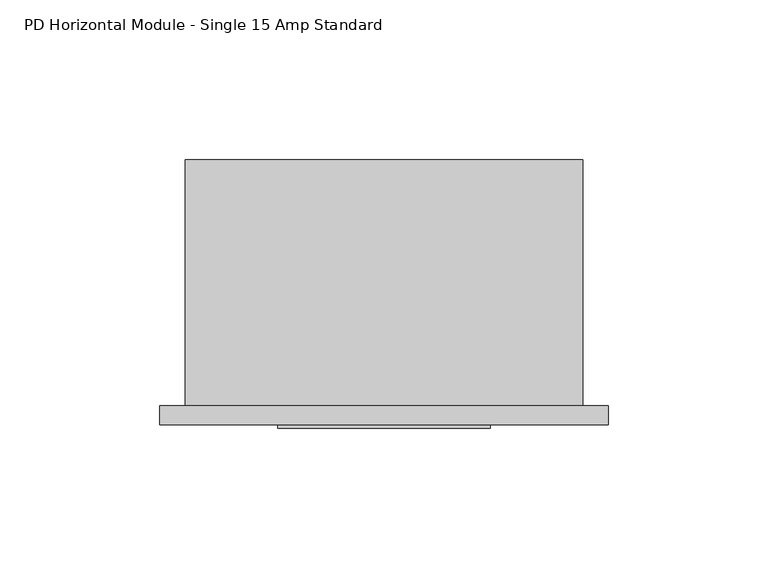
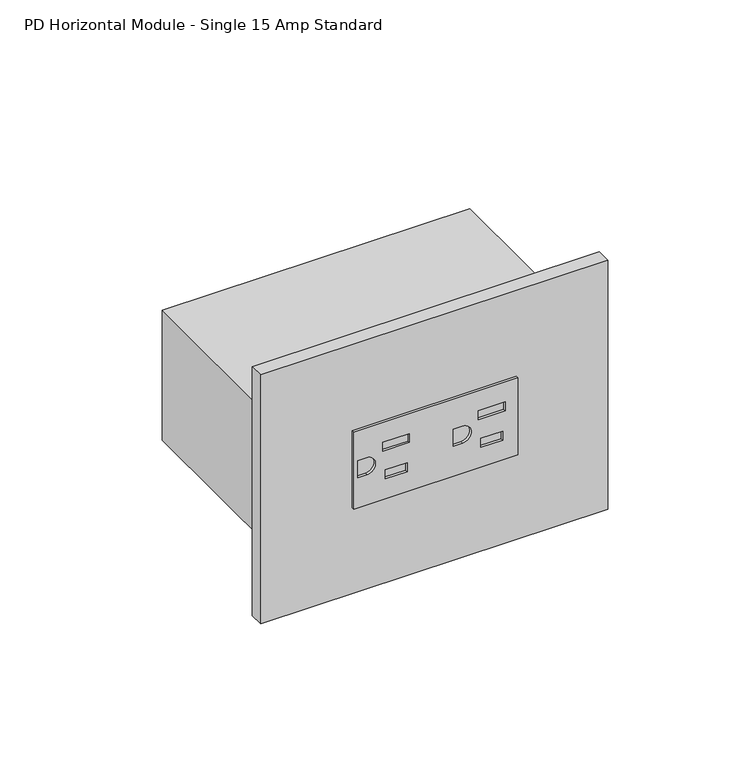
"""IFC4 building model written with IfcOpenShell, lengths in millimetres: proxy geometry, Electrical-Teknion-EPDHS_Horizontal_Power_Data_Single-R2019 : PD Horizontal Module - Single 15 Amp Standard."""

import ifcopenshell
import ifcopenshell.guid

model = None  # the IFC model being written
_history = None  # IfcOwnerHistory: only IFC2X3 demands one
_inside = {}  # id of a spatial element -> (the spatial element, [elements in it])
_under = {}  # id of a project, library or spatial element -> (it, [spatial elements below it])
_declared = {}  # id of a project -> (the project, [libraries it declares])
_typed = {}  # id of a type object -> (the type object, [elements of that type])
_made_of = {}  # id of a material, layer set ... -> (it, [elements and type objects made of it])


def new_model(schema):
    """Start an empty IFC model of exactly this schema.

    Asked for "IFC4X3", IfcOpenShell would pick the latest addendum, in which some entities
    have other attributes; the version numbers below select the first issue.
    IFC2X3 requires an IfcOwnerHistory on every rooted entity: one is made here for all.
    """
    global model, _history
    if schema == "IFC4X3":
        model = ifcopenshell.file(schema_version=(4, 3, 0, 0))
    else:
        model = ifcopenshell.file(schema=schema)
    _inside.clear()
    _under.clear()
    _declared.clear()
    _typed.clear()
    _made_of.clear()
    _history = None
    if model.schema == "IFC2X3":
        org = make("IfcOrganization", Name="unknown")
        user = make(
            "IfcPersonAndOrganization",
            ThePerson=make("IfcPerson", FamilyName="unknown"),
            TheOrganization=org,
        )
        app = make(
            "IfcApplication",
            ApplicationDeveloper=org,
            Version="unknown",
            ApplicationFullName="unknown",
            ApplicationIdentifier="unknown",
        )
        _history = make(
            "IfcOwnerHistory",
            OwningUser=user,
            OwningApplication=app,
            ChangeAction="ADDED",
            CreationDate=0,
        )
    return model


def make(cls, **values):
    """One entity of the class cls with the attributes given. An attribute that is None is left unset."""
    return model.create_entity(
        cls, **{name: value for name, value in values.items() if value is not None}
    )


def rooted(cls, **values):
    """An entity with a GlobalId (a new one), such as an element, a storey or a relation."""
    return make(cls, GlobalId=ifcopenshell.guid.new(), OwnerHistory=_history, **values)


def si_unit(unit_type, name, prefix=None):
    """IfcSIUnit, for example si_unit("LENGTHUNIT", "METRE", prefix="MILLI")."""
    return make("IfcSIUnit", UnitType=unit_type, Prefix=prefix, Name=name)


def assignment(units):
    """IfcUnitAssignment: the units of a project."""
    return None if units is None else make("IfcUnitAssignment", Units=units)


def point(xyz):
    """IfcCartesianPoint."""
    return None if xyz is None else make("IfcCartesianPoint", Coordinates=xyz)


def direction(xyz):
    """IfcDirection."""
    return None if xyz is None else make("IfcDirection", DirectionRatios=xyz)


def frame(location, z_axis=None, x_axis=None):
    """IfcAxis2Placement3D, a coordinate frame: its origin and axes. An axis left out is left unset."""
    return make(
        "IfcAxis2Placement3D",
        Location=point(location),
        Axis=direction(z_axis),
        RefDirection=direction(x_axis),
    )


def frame_2d(location, x_axis=None):
    """IfcAxis2Placement2D, a coordinate frame in the plane: its origin and x axis."""
    return make(
        "IfcAxis2Placement2D", Location=point(location), RefDirection=direction(x_axis)
    )


def origin():
    """The frame at (0, 0, 0) with its axes left unset."""
    return frame((0.0, 0.0, 0.0))


def place(relative_to, where):
    """IfcLocalPlacement: puts the frame where relative to a parent placement (None: the world)."""
    return make(
        "IfcLocalPlacement", PlacementRelTo=relative_to, RelativePlacement=where
    )


def context(
    kind, dimensions, precision=None, world=None, true_north=None, identifier=None
):
    """IfcGeometricRepresentationContext, for example the 3D "Model" context."""
    return make(
        "IfcGeometricRepresentationContext",
        ContextIdentifier=identifier,
        ContextType=kind,
        CoordinateSpaceDimension=dimensions,
        Precision=precision,
        WorldCoordinateSystem=world,
        TrueNorth=true_north,
    )


def project(units=None, contexts=None):
    """IfcProject with its units and contexts."""
    return rooted(
        "IfcProject",
        Name="project",
        RepresentationContexts=contexts,
        UnitsInContext=assignment(units),
    )


def spatial(cls, under=None, at=None, **own):
    """A site, building, storey or space (cls), placed at a placement, below another one or the project."""
    s = rooted(cls, ObjectPlacement=at, **own)
    if under is not None:
        _under.setdefault(under.id(), (under, []))[1].append(s)
    return s


def polyline(points):
    """IfcPolyline through the points."""
    return make("IfcPolyline", Points=[point(p) for p in points])


def circle_curve(where, radius):
    """IfcCircle in the frame where."""
    return make("IfcCircle", Position=where, Radius=radius)


def trimmed(basis, trim1, trim2, sense, master):
    """IfcTrimmedCurve: the piece of a basis curve between two trims."""
    return make(
        "IfcTrimmedCurve",
        BasisCurve=basis,
        Trim1=trim1,
        Trim2=trim2,
        SenseAgreement=sense,
        MasterRepresentation=master,
    )


def segment(curve, same_sense, transition):
    """IfcCompositeCurveSegment."""
    return make(
        "IfcCompositeCurveSegment",
        Transition=transition,
        SameSense=same_sense,
        ParentCurve=curve,
    )


def composite_curve(segments, self_intersect=None):
    """IfcCompositeCurve: segments joined end to end."""
    return make("IfcCompositeCurve", Segments=segments, SelfIntersect=self_intersect)


def outline(outer, holes=None, kind="AREA"):
    """IfcArbitraryClosedProfileDef: a profile drawn as a closed curve; with holes, ...WithVoids."""
    if holes is None:
        return make("IfcArbitraryClosedProfileDef", ProfileType=kind, OuterCurve=outer)
    return make(
        "IfcArbitraryProfileDefWithVoids",
        ProfileType=kind,
        OuterCurve=outer,
        InnerCurves=holes,
    )


def extrude(swept, where, along, depth):
    """IfcExtrudedAreaSolid: the profile swept, set in the frame where, extruded along a direction by depth."""
    return make(
        "IfcExtrudedAreaSolid",
        SweptArea=swept,
        Position=where,
        ExtrudedDirection=direction(along),
        Depth=depth,
    )


def shape(context_of_items, identifier, shape_type, items):
    """IfcShapeRepresentation: the items that make up one representation, for example the "Body"."""
    return make(
        "IfcShapeRepresentation",
        ContextOfItems=context_of_items,
        RepresentationIdentifier=identifier,
        RepresentationType=shape_type,
        Items=items,
    )


def source(mapping_origin, context_of_items, identifier, shape_type, items):
    """IfcRepresentationMap: a shape defined once, which mapped items show again and again."""
    return make(
        "IfcRepresentationMap",
        MappingOrigin=mapping_origin,
        MappedRepresentation=shape(context_of_items, identifier, shape_type, items),
    )


def transform(
    local_origin,
    x_axis=None,
    y_axis=None,
    z_axis=None,
    scale=None,
    scale2=None,
    scale3=None,
    uniform=True,
):
    """IfcCartesianTransformationOperator3D, or its non-uniform kind. x_axis, y_axis, z_axis: its Axis1, 2, 3."""
    if uniform:
        return make(
            "IfcCartesianTransformationOperator3D",
            Axis1=direction(x_axis),
            Axis2=direction(y_axis),
            LocalOrigin=point(local_origin),
            Scale=scale,
            Axis3=direction(z_axis),
        )
    return make(
        "IfcCartesianTransformationOperator3DnonUniform",
        Axis1=direction(x_axis),
        Axis2=direction(y_axis),
        LocalOrigin=point(local_origin),
        Scale=scale,
        Axis3=direction(z_axis),
        Scale2=scale2,
        Scale3=scale3,
    )


def mapped(mapping_source, mapping_target):
    """IfcMappedItem: shows the shape of a source again, moved by a transform."""
    return make(
        "IfcMappedItem", MappingSource=mapping_source, MappingTarget=mapping_target
    )


def made_of(thing, what):
    """Note that an element or type object is made of a material, layer set ...; save() writes the relation."""
    if what is not None:
        _made_of.setdefault(what.id(), (what, []))[1].append(thing)
    return thing


def element(
    cls,
    number,
    at=None,
    inside=None,
    cuts=None,
    type_object=None,
    material=None,
    context=None,
    identifier="Body",
    shape_type=None,
    held_by="IfcProductDefinitionShape",
    body=None,
    shapes=None,
    **own,
):
    """One element of the class cls, such as IfcWall. Its Tag is "e" and its number.

    at: its placement. inside: the storey or other place that contains it. cuts: it is an
    opening in that element (IfcRelVoidsElement). A single representation is given by context,
    identifier, shape_type and body (its items); several are given by shapes. held_by: the class
    of the entity that holds the representations. save() writes the other relations.
    """
    e = rooted(cls, Tag="e%d" % number, ObjectPlacement=at, **own)
    if body is not None:
        shapes = [shape(context, identifier, shape_type, body)]
    if shapes is not None:
        e.Representation = make(held_by, Representations=shapes)
    if inside is not None:
        _inside.setdefault(inside.id(), (inside, []))[1].append(e)
    if cuts is not None:
        rooted(
            "IfcRelVoidsElement", RelatingBuildingElement=cuts, RelatedOpeningElement=e
        )
    if type_object is not None:
        _typed.setdefault(type_object.id(), (type_object, []))[1].append(e)
    return made_of(e, material)


def aggregate(whole, parts):
    """IfcRelAggregates: a whole, such as a stair, and the parts it consists of."""
    return rooted("IfcRelAggregates", RelatingObject=whole, RelatedObjects=parts)


def save(model, path):
    """Write the relations noted so far, then the file.

    IfcRelAggregates (storeys below a building ...), IfcRelContainedInSpatialStructure (elements
    in a storey), IfcRelDefinesByType, IfcRelAssociatesMaterial and IfcRelDeclares: one each for
    every whole, place, type object, material and project.
    """
    for whole, parts in _under.values():
        aggregate(whole, parts)
    for where, things in _inside.values():
        rooted(
            "IfcRelContainedInSpatialStructure",
            RelatedElements=things,
            RelatingStructure=where,
        )
    for kind, things in _typed.values():
        rooted("IfcRelDefinesByType", RelatedObjects=things, RelatingType=kind)
    for what, things in _made_of.values():
        rooted("IfcRelAssociatesMaterial", RelatedObjects=things, RelatingMaterial=what)
    for by, libraries in _declared.values():
        rooted("IfcRelDeclares", RelatingContext=by, RelatedDefinitions=libraries)
    model.write(path)


def pd_horizontal_module_single_15_amp_standard_5c934545(model_context):
    return source(origin(), model_context, "Body", "SweptSolid", [
        extrude(outline(polyline([(821.7027, 95.5294), (854.6973, 95.5294), (854.6973, 28.9814), (821.7027, 28.9814), (821.7027, 95.5294)]), holes=[polyline([(842.3529, 90.3478), (842.3529, 79.5274), (846.1883, 79.5274), (846.1883, 90.3478), (842.3529, 90.3478)]), polyline([(830.1863, 89.3699), (830.1863, 80.5053), (834.0217, 80.5053), (834.0217, 89.3699), (830.1863, 89.3699)]), composite_curve([segment(polyline([(834.5678, 69.342), (841.8322, 69.342), (841.8322, 72.9742)]), True, "CONTINUOUS"), segment(trimmed(circle_curve(frame_2d((838.2, 72.9742)), 3.6322), [point((841.8322, 72.9742))], [point((834.5678, 72.9742))], True, "CARTESIAN"), True, "CONTINUOUS"), segment(polyline([(834.5678, 72.9742), (834.5678, 69.342)]), True, "CONTINUOUS")], self_intersect=False), polyline([(842.3529, 51.6128), (842.3529, 40.7924), (846.1883, 40.7924), (846.1883, 51.6128), (842.3529, 51.6128)]), polyline([(830.1863, 50.6349), (830.1863, 41.7703), (834.0217, 41.7703), (834.0217, 50.6349), (830.1863, 50.6349)]), composite_curve([segment(polyline([(834.5678, 30.607), (841.8322, 30.607), (841.8322, 34.2392)]), True, "CONTINUOUS"), segment(trimmed(circle_curve(frame_2d((838.2, 34.2392)), 3.6322), [point((841.8322, 34.2392))], [point((834.5678, 34.2392))], True, "CARTESIAN"), True, "CONTINUOUS"), segment(polyline([(834.5678, 34.2392), (834.5678, 30.607)]), True, "CONTINUOUS")], self_intersect=False)]), frame((0.0, -6.9294746, 0.0), z_axis=(0.0, 1.0, 0.0), x_axis=(0.0, 0.0, 1.0)), (0.0, 0.0, 1.0), 1.0366746),
        extrude(outline(polyline([(-7.9502, 0.0), (132.4102, 0.0), (132.4102, -5.8928), (-7.9502, -5.8928), (-7.9502, 0.0)])), frame((0.0, 0.0, 784.9108), z_axis=(0.0, 0.0, 1.0), x_axis=(1.0, 0.0, 0.0)), (0.0, 0.0, 1.0), 106.5784),
        extrude(outline(polyline([(124.46, 0.0), (0.0, 0.0), (0.0, 77.054), (124.46, 77.054), (124.46, 0.0)])), frame((0.0, 0.0, 810.4124), z_axis=(0.0, 0.0, 1.0), x_axis=(1.0, 0.0, 0.0)), (0.0, 0.0, 1.0), 55.5752),
    ])


if __name__ == "__main__":
    model = new_model("IFC4")
    model_context = context("Model", 3, world=origin())
    ifc_project = project(units=[si_unit("LENGTHUNIT", "METRE", prefix="MILLI")], contexts=[model_context])
    site = spatial("IfcSite", under=ifc_project)
    building = spatial("IfcBuilding", under=site)
    placement = place(None, origin())
    pd_horizontal_module_single_15_amp_standard_shape = pd_horizontal_module_single_15_amp_standard_5c934545(model_context)
    element("IfcBuildingElementProxy", 1, Name="Electrical-Teknion-EPDHS_Horizontal_Power_Data_Single-R2019 : PD Horizontal Module - Single 15 Amp Standard", ObjectType="Electrical-Teknion-EPDHS_Horizontal_Power_Data_Single-R2019 : PD Horizontal Module - Single 15 Amp Standard", at=placement, inside=building, context=model_context, shape_type="MappedRepresentation", body=[
        mapped(pd_horizontal_module_single_15_amp_standard_shape, transform((0.0, 0.0, 0.0), x_axis=(1.0, 0.0, 0.0), y_axis=(0.0, 1.0, 0.0), z_axis=(0.0, 0.0, 1.0))),
    ])
    save(model, "model.ifc")
